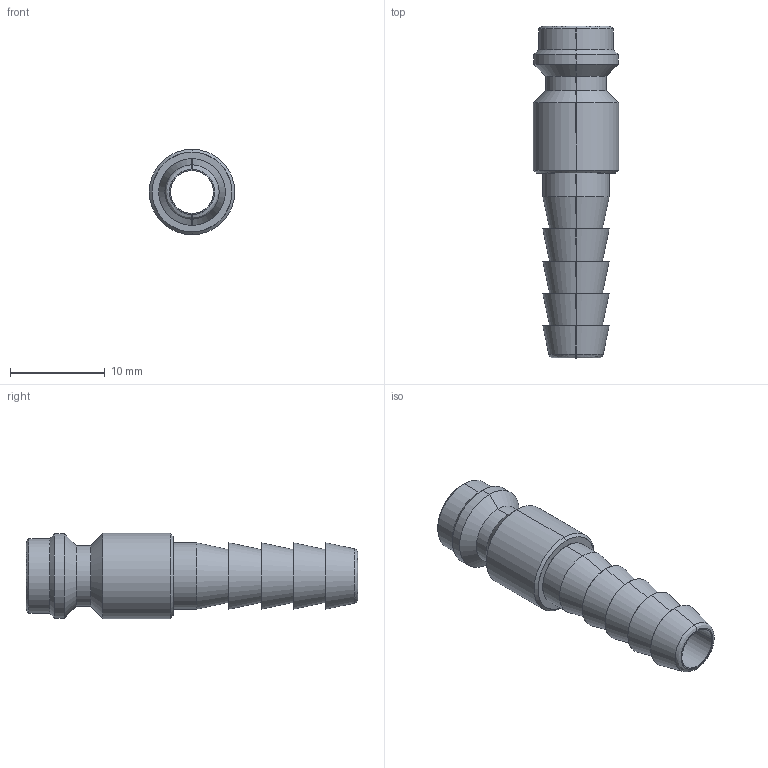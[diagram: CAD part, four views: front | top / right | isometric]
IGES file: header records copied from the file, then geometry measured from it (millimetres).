
Start section: SolidWorks IGES file using analytic representation for surfaces
Global section: file name: K:\Disegni Esecutivi\Serie 100-200\ASSIEMI\215\002150001X400A.IGS; native system: SolidWorks 2008; preprocessor: SolidWorks 2008; author: cad05; date: 090305.101202; units: millimetre
Bounding box: 9 x 35 x 9 mm (x, y, z)
Surface area: 1461.1 mm2 (no closed solid volume)
Topology: 0 solids, 0 shells, 45 faces, 600 edges, 600 vertices
Faces by surface type: revolution 36, bspline 9
